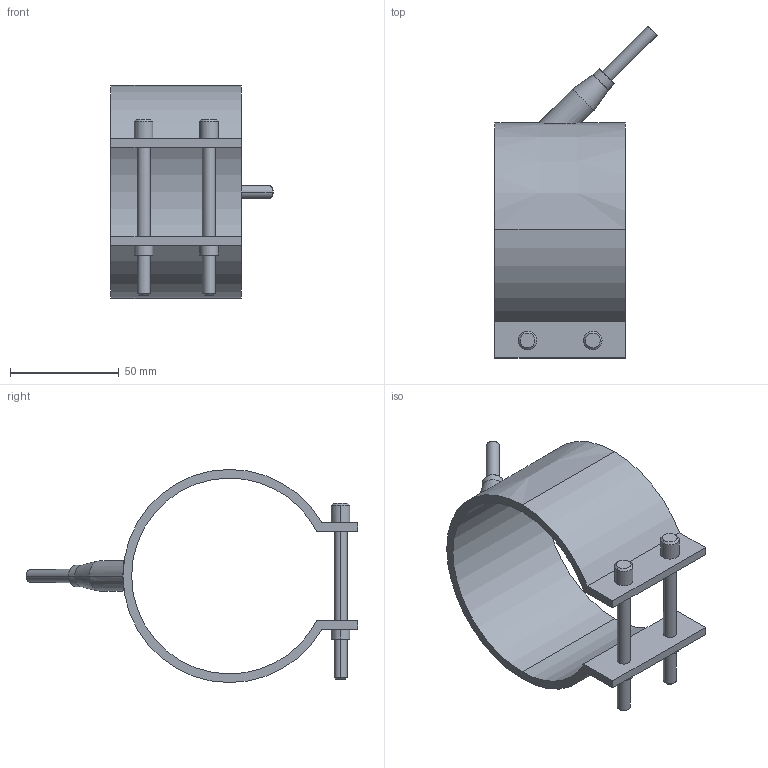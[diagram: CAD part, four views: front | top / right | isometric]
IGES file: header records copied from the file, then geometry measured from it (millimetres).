
Start section: START RECORD GO HERE.
Global section: file name: 29090060.igs; native system: DASSAULT SYSTEMES CATIA V5 R20 - www.3ds.com; preprocessor: CATIA Version 5 Release 20 ; author: Utente; organization: NB04-ASUS; date: 20210329.195746; units: millimetre
Bounding box: 74.55 x 152.55 x 98 mm (x, y, z)
Surface area: 41275 mm2 (no closed solid volume)
Topology: 0 solids, 0 shells, 54 faces, 246 edges, 246 vertices
Faces by surface type: revolution 38, plane 16
